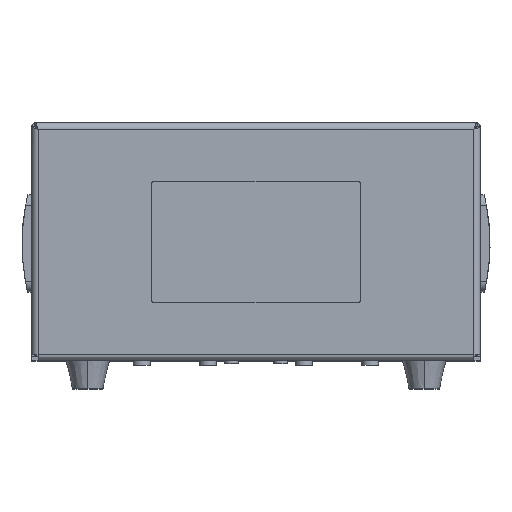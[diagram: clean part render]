
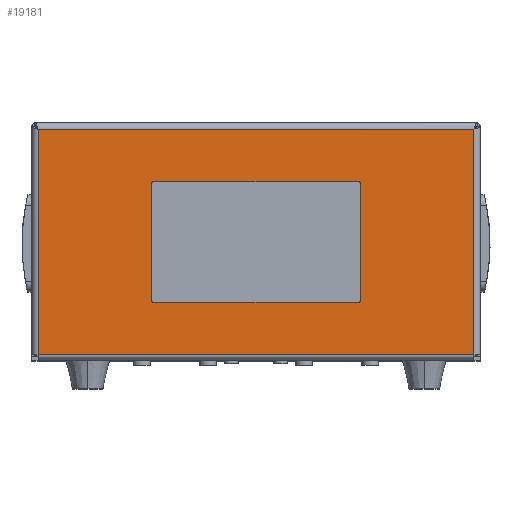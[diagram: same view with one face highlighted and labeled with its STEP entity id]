
A CAD part, top view. The second image highlights one B-rep face of the part: STEP entity #19181.
In plain terms, the highlighted planar face has unit normal (0, 0, 1).
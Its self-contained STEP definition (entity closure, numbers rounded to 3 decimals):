
#125 = LINE ( 'NONE', #23788, #24643 ) ;
#1150 = VERTEX_POINT ( 'NONE', #40597 ) ;
#1382 = CARTESIAN_POINT ( 'NONE',  ( 354.2, 52., 150. ) ) ;
#2674 = LINE ( 'NONE', #59107, #14082 ) ;
#4237 = ORIENTED_EDGE ( 'NONE', *, *, #28471, .F. ) ;
#4752 = EDGE_CURVE ( 'NONE', #48160, #42450, #15801, .T. ) ;
#4921 = DIRECTION ( 'NONE',  ( 0., 0., 1. ) ) ;
#5367 = DIRECTION ( 'NONE',  ( 1., 0., 0. ) ) ;
#6072 = VERTEX_POINT ( 'NONE', #12127 ) ;
#6094 = LINE ( 'NONE', #39196, #15038 ) ;
#6133 = EDGE_CURVE ( 'NONE', #21181, #52609, #6094, .T. ) ;
#6236 = DIRECTION ( 'NONE',  ( -1., 0., 0. ) ) ;
#6353 = DIRECTION ( 'NONE',  ( 1., 0., 0. ) ) ;
#6366 = DIRECTION ( 'NONE',  ( 0., 0., 1. ) ) ;
#6436 = VERTEX_POINT ( 'NONE', #21530 ) ;
#7062 = EDGE_CURVE ( 'NONE', #6072, #59957, #125, .T. ) ;
#8907 = DIRECTION ( 'NONE',  ( 0., 0., 1. ) ) ;
#10218 = ORIENTED_EDGE ( 'NONE', *, *, #58599, .F. ) ;
#10373 = DIRECTION ( 'NONE',  ( 0., -1., 0. ) ) ;
#10502 = FACE_OUTER_BOUND ( 'NONE', #16046, .T. ) ;
#11265 = CARTESIAN_POINT ( 'NONE',  ( 354.2, 52., 150. ) ) ;
#11274 = EDGE_CURVE ( 'NONE', #42450, #19339, #31738, .T. ) ;
#11394 = CARTESIAN_POINT ( 'NONE',  ( 205.7, -28.25, 150. ) ) ;
#11421 = CARTESIAN_POINT ( 'NONE',  ( 300.7, 27.75, 150. ) ) ;
#12127 = CARTESIAN_POINT ( 'NONE',  ( 301.7, -27.25, 150. ) ) ;
#12465 = DIRECTION ( 'NONE',  ( 0., 1., 0. ) ) ;
#13916 = VECTOR ( 'NONE', #23961, 1000. ) ;
#14082 = VECTOR ( 'NONE', #12465, 1000. ) ;
#15038 = VECTOR ( 'NONE', #38963, 1000. ) ;
#15801 = LINE ( 'NONE', #11265, #65454 ) ;
#16046 = EDGE_LOOP ( 'NONE', ( #59302, #52092, #27621, #44913 ) ) ;
#16302 = CARTESIAN_POINT ( 'NONE',  ( 300.7, -28.25, 150. ) ) ;
#16423 = ORIENTED_EDGE ( 'NONE', *, *, #65161, .F. ) ;
#16818 = PLANE ( 'NONE',  #52048 ) ;
#17824 = EDGE_CURVE ( 'NONE', #1150, #48160, #2674, .T. ) ;
#18218 = EDGE_LOOP ( 'NONE', ( #16423, #57968, #4237, #56487, #28824, #63762, #61822, #10218 ) ) ;
#19181 = ADVANCED_FACE ( 'NONE', ( #10502, #56086 ), #16818, .T. ) ;
#19336 = CARTESIAN_POINT ( 'NONE',  ( 205.7, -27.25, 150. ) ) ;
#19339 = VERTEX_POINT ( 'NONE', #39671 ) ;
#19595 = LINE ( 'NONE', #59917, #13916 ) ;
#21181 = VERTEX_POINT ( 'NONE', #29849 ) ;
#21530 = CARTESIAN_POINT ( 'NONE',  ( 205.7, -28.25, 150. ) ) ;
#23120 = VECTOR ( 'NONE', #29483, 1000. ) ;
#23608 = CARTESIAN_POINT ( 'NONE',  ( 204.7, -27.25, 150. ) ) ;
#23788 = CARTESIAN_POINT ( 'NONE',  ( 301.7, -27.25, 150. ) ) ;
#23961 = DIRECTION ( 'NONE',  ( -1., 0., 0. ) ) ;
#24643 = VECTOR ( 'NONE', #50019, 1000. ) ;
#24967 = LINE ( 'NONE', #11394, #60780 ) ;
#25709 = CARTESIAN_POINT ( 'NONE',  ( 300.7, 26.75, 150. ) ) ;
#27320 = EDGE_CURVE ( 'NONE', #52609, #6436, #33617, .T. ) ;
#27621 = ORIENTED_EDGE ( 'NONE', *, *, #11274, .T. ) ;
#28471 = EDGE_CURVE ( 'NONE', #33762, #6072, #42399, .T. ) ;
#28824 = ORIENTED_EDGE ( 'NONE', *, *, #27320, .F. ) ;
#29483 = DIRECTION ( 'NONE',  ( 1., 0., 0. ) ) ;
#29849 = CARTESIAN_POINT ( 'NONE',  ( 204.7, 26.75, 150. ) ) ;
#29929 = CARTESIAN_POINT ( 'NONE',  ( 152.2, -52.5, 150. ) ) ;
#30106 = VECTOR ( 'NONE', #57462, 1000. ) ;
#30914 = CARTESIAN_POINT ( 'NONE',  ( 300.7, -27.25, 150. ) ) ;
#31738 = LINE ( 'NONE', #40754, #30106 ) ;
#32112 = VERTEX_POINT ( 'NONE', #60800 ) ;
#32276 = AXIS2_PLACEMENT_3D ( 'NONE', #65648, #49574, #39353 ) ;
#32998 = CIRCLE ( 'NONE', #32276, 1. ) ;
#33297 = VERTEX_POINT ( 'NONE', #11421 ) ;
#33617 = CIRCLE ( 'NONE', #38881, 1. ) ;
#33762 = VERTEX_POINT ( 'NONE', #16302 ) ;
#37045 = LINE ( 'NONE', #29929, #23120 ) ;
#38881 = AXIS2_PLACEMENT_3D ( 'NONE', #19336, #8907, #50400 ) ;
#38950 = EDGE_CURVE ( 'NONE', #19339, #1150, #37045, .T. ) ;
#38963 = DIRECTION ( 'NONE',  ( 0., -1., 0. ) ) ;
#39196 = CARTESIAN_POINT ( 'NONE',  ( 204.7, 26.75, 150. ) ) ;
#39353 = DIRECTION ( 'NONE',  ( 0., 1., 0. ) ) ;
#39671 = CARTESIAN_POINT ( 'NONE',  ( 152.2, -52.5, 150. ) ) ;
#40597 = CARTESIAN_POINT ( 'NONE',  ( 354.2, -52.5, 150. ) ) ;
#40754 = CARTESIAN_POINT ( 'NONE',  ( 152.2, 52., 150. ) ) ;
#41632 = DIRECTION ( 'NONE',  ( 0., 0., 1. ) ) ;
#42399 = CIRCLE ( 'NONE', #52027, 1. ) ;
#42450 = VERTEX_POINT ( 'NONE', #60312 ) ;
#43781 = CARTESIAN_POINT ( 'NONE',  ( 253.2, 0., 150. ) ) ;
#44913 = ORIENTED_EDGE ( 'NONE', *, *, #38950, .T. ) ;
#47375 = AXIS2_PLACEMENT_3D ( 'NONE', #25709, #4921, #5367 ) ;
#48160 = VERTEX_POINT ( 'NONE', #1382 ) ;
#49574 = DIRECTION ( 'NONE',  ( 0., 0., 1. ) ) ;
#49734 = EDGE_CURVE ( 'NONE', #32112, #21181, #32998, .T. ) ;
#50019 = DIRECTION ( 'NONE',  ( 0., 1., 0. ) ) ;
#50400 = DIRECTION ( 'NONE',  ( -1., 0., 0. ) ) ;
#52027 = AXIS2_PLACEMENT_3D ( 'NONE', #30914, #41632, #10373 ) ;
#52048 = AXIS2_PLACEMENT_3D ( 'NONE', #43781, #6366, #53314 ) ;
#52092 = ORIENTED_EDGE ( 'NONE', *, *, #4752, .T. ) ;
#52609 = VERTEX_POINT ( 'NONE', #23608 ) ;
#53314 = DIRECTION ( 'NONE',  ( 1., 0., 0. ) ) ;
#53599 = EDGE_CURVE ( 'NONE', #6436, #33762, #24967, .T. ) ;
#56086 = FACE_BOUND ( 'NONE', #18218, .T. ) ;
#56487 = ORIENTED_EDGE ( 'NONE', *, *, #53599, .F. ) ;
#56521 = CIRCLE ( 'NONE', #47375, 1. ) ;
#57462 = DIRECTION ( 'NONE',  ( 0., -1., 0. ) ) ;
#57968 = ORIENTED_EDGE ( 'NONE', *, *, #7062, .F. ) ;
#58599 = EDGE_CURVE ( 'NONE', #33297, #32112, #19595, .T. ) ;
#58688 = CARTESIAN_POINT ( 'NONE',  ( 301.7, 26.75, 150. ) ) ;
#59107 = CARTESIAN_POINT ( 'NONE',  ( 354.2, -52.5, 150. ) ) ;
#59302 = ORIENTED_EDGE ( 'NONE', *, *, #17824, .T. ) ;
#59917 = CARTESIAN_POINT ( 'NONE',  ( 300.7, 27.75, 150. ) ) ;
#59957 = VERTEX_POINT ( 'NONE', #58688 ) ;
#60312 = CARTESIAN_POINT ( 'NONE',  ( 152.2, 52., 150. ) ) ;
#60780 = VECTOR ( 'NONE', #6353, 1000. ) ;
#60800 = CARTESIAN_POINT ( 'NONE',  ( 205.7, 27.75, 150. ) ) ;
#61822 = ORIENTED_EDGE ( 'NONE', *, *, #49734, .F. ) ;
#63762 = ORIENTED_EDGE ( 'NONE', *, *, #6133, .F. ) ;
#65161 = EDGE_CURVE ( 'NONE', #59957, #33297, #56521, .T. ) ;
#65454 = VECTOR ( 'NONE', #6236, 1000. ) ;
#65648 = CARTESIAN_POINT ( 'NONE',  ( 205.7, 26.75, 150. ) ) ;
